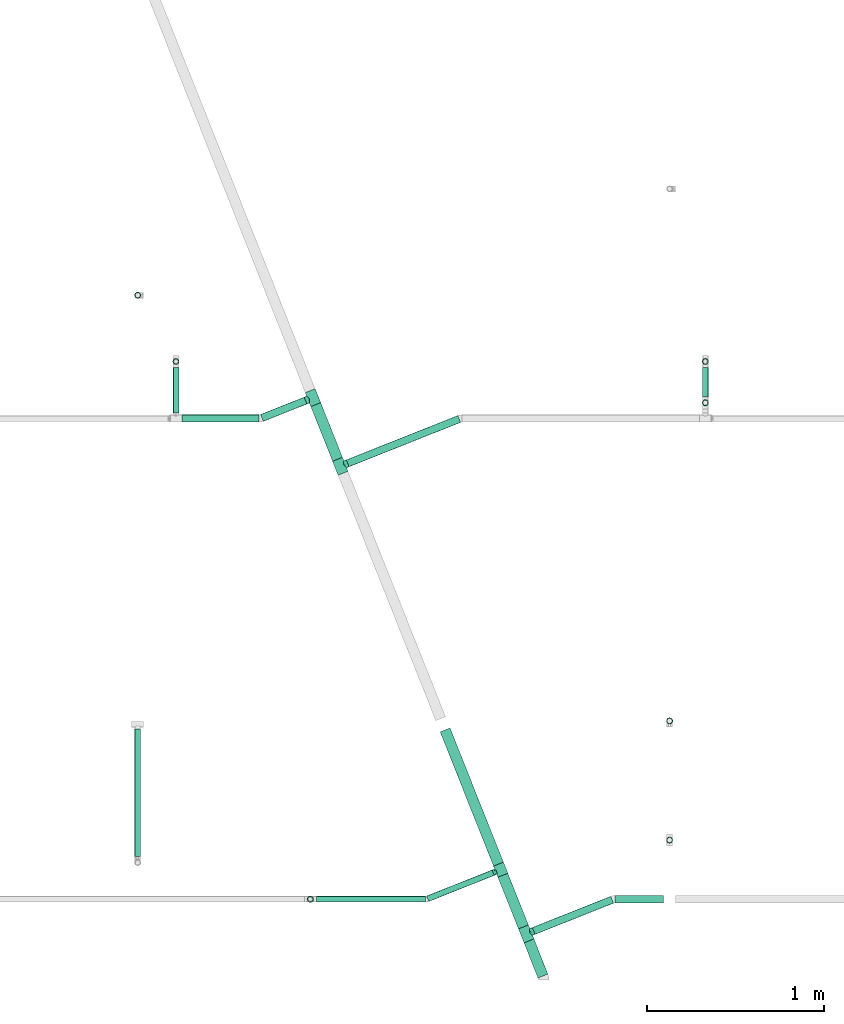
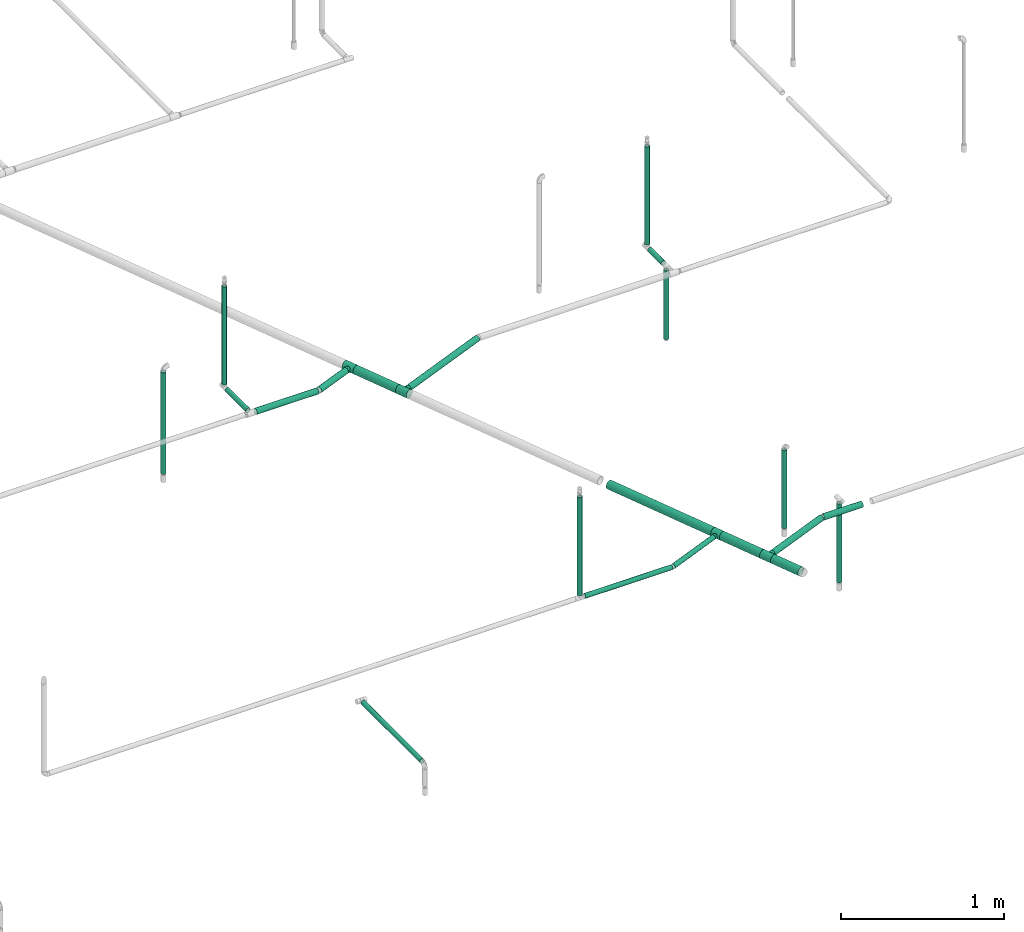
# One storey, part 7 of 94: 21 flow segments, 4 flow fittings.
"""IFC2X3 building model written with IfcOpenShell, lengths in millimetres."""

from ifc_helpers import new_model, entity, si_unit, converted_unit, derived_unit, direction, frame, origin_with_axes, origin_2d_with_axis, place, context, subcontext, project, spatial, hollow_circle, extrude, open_shell, surface_model, source, transform, mapped, type_object, element, save


model = new_model("IFC2X3")

# Units and contexts
model_context = context("Model", 3, precision=0.01, world=frame((0.0, 4.29681676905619e-09, 0.0)), true_north=direction((4.01073788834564e-13, 1.0)))
plan_context = context("Plan", 3, precision=0.01, world=frame((0.0, 4.29681676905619e-09, 0.0)), true_north=direction((4.01073788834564e-13, 1.0)))
body_context = subcontext(model_context, "Body", "Model", "MODEL_VIEW")
ifc_project = project(units=[converted_unit("PLANEANGLEUNIT", "DEGREE", entity("IfcPositiveLengthMeasure", 0.0174532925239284), si_unit("PLANEANGLEUNIT", "RADIAN"), dimensions=[0, 0, 0, 0, 0, 0, 0]), si_unit("AREAUNIT", "SQUARE_METRE"), si_unit("LENGTHUNIT", "METRE", prefix="MILLI"), si_unit("MASSUNIT", "GRAM", prefix="KILO"), si_unit("POWERUNIT", "WATT"), si_unit("PRESSUREUNIT", "PASCAL", prefix="KILO"), si_unit("FORCEUNIT", "NEWTON", prefix="KILO"), si_unit("ELECTRICVOLTAGEUNIT", "VOLT"), si_unit("ELECTRICCURRENTUNIT", "AMPERE"), si_unit("THERMODYNAMICTEMPERATUREUNIT", "DEGREE_CELSIUS"), si_unit("TIMEUNIT", "SECOND"), si_unit("VOLUMEUNIT", "CUBIC_METRE"), derived_unit("LINEARVELOCITYUNIT", [(si_unit("LENGTHUNIT", "METRE"), 1), (si_unit("TIMEUNIT", "SECOND"), -1)]), derived_unit("VOLUMETRICFLOWRATEUNIT", [(si_unit("VOLUMEUNIT", "CUBIC_METRE"), 1), (si_unit("TIMEUNIT", "SECOND"), -1)]), derived_unit("THERMALTRANSMITTANCEUNIT", [(si_unit("POWERUNIT", "WATT"), 1), (si_unit("THERMODYNAMICTEMPERATUREUNIT", "KELVIN"), -1), (si_unit("AREAUNIT", "SQUARE_METRE"), -1)]), derived_unit("SOUNDPRESSUREUNIT", [(si_unit("PRESSUREUNIT", "PASCAL"), 1)])], contexts=[model_context, plan_context])

# Site, building, storey
site_placement = place(None, frame((0.0, -4.29681676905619e-09, 0.0), z_axis=(0.0, 0.0, 1.0), x_axis=(1.0, 0.0, 0.0)))
site = spatial("IfcSite", under=ifc_project, at=site_placement, CompositionType="ELEMENT")
building_placement = place(site_placement, frame((0.0, 4.29681676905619e-09, 0.0), z_axis=(0.0, 0.0, 1.0), x_axis=(1.0, 0.0, 0.0)))
building = spatial("IfcBuilding", under=site, at=building_placement, Name="mc-building", CompositionType="ELEMENT")
storey_placement = place(building_placement, frame((0.0, 0.0, 210900.0), z_axis=(0.0, 0.0, 1.0), x_axis=(1.0, 0.0, 0.0)))
storey = spatial("IfcBuildingStorey", under=building, at=storey_placement, Name="Nivå F", CompositionType="ELEMENT", Elevation=210900.0)

# Flow fittings
pipe_fitting_type = type_object("IfcPipeFittingType", Name="magi_pipe_fe_tee_centric_90_NOR", PredefinedType="JUNCTION")
shared_shape_1 = source(origin_with_axes(), body_context, "Body", "SurfaceModel", [
    surface_model("IfcShellBasedSurfaceModel", [(-33.8, 15.1, -26.15397), (-33.8, 7.81634, -29.17096), (-33.8, 0.0, -30.2), (-33.8, 29.17096, -7.81634), (-33.8, 26.15397, -15.1), (-33.8, 21.35462, -21.35462), (-33.8, 30.2, 0.0), (-33.8, -30.2, 0.0), (-33.8, -15.1, -26.15397), (-33.8, -21.35462, -21.35462), (-33.8, -7.81634, -29.17096), (-33.8, -26.15397, -15.1), (-33.8, -29.17096, -7.81634), (-33.8, 26.15397, 15.1), (-33.8, 29.17096, 7.81634), (-33.8, 15.1, 26.15397), (-33.8, -21.35462, 21.35462), (-33.8, 21.35462, 21.35462), (-33.8, 7.81634, 29.17096), (-33.8, -29.17096, 7.81634), (-33.8, -26.15397, 15.1), (-33.8, -7.81634, 29.17096), (-33.8, 0.0, 30.2), (-33.8, -15.1, 26.15397), (33.8, 29.17096, -7.81634), (33.8, 0.0, -30.2), (33.8, 7.81634, -29.17096), (33.8, 21.35462, -21.35462), (33.8, 15.1, -26.15397), (33.8, 26.15397, -15.1), (33.8, -30.2, 0.0), (33.8, -7.81634, -29.17096), (33.8, -21.35462, -21.35462), (33.8, -15.1, -26.15397), (33.8, -29.17096, -7.81634), (33.8, -26.15397, -15.1), (33.8, 30.2, 0.0), (33.8, 29.17096, 7.81634), (33.8, 26.15397, 15.1), (33.8, -29.17096, 7.81634), (33.8, 15.1, 26.15397), (33.8, 7.81634, 29.17096), (33.8, 21.35462, 21.35462), (33.8, -21.35462, 21.35462), (33.8, -26.15397, 15.1), (33.8, -15.1, 26.15397), (33.8, 0.0, 30.2), (33.8, -7.81634, 29.17096), (33.8, -29.68548, 3.90817), (15.846, -29.62306, 5.87488), (16.373, -29.91153, 2.93744), (12.91037, -28.16217, 10.90561), (2.99213, -25.2068, 16.63301), (16.9, -30.2, 0.0), (33.8, -27.66246, 11.45817), (8.50854, -26.43531, 14.60187), (-8.51006, -26.43579, 14.60099), (-33.8, -27.66246, 11.45817), (-12.91447, -28.16405, 10.90075), (-15.84655, -29.62335, 5.87341), (-33.8, -29.68548, 3.90817), (-16.37327, -29.91168, 2.93671), (-16.9, -30.2, 0.0), (-2.99705, -25.20739, 16.63213), (2.99213, -25.2068, -16.63301), (-16.37327, -29.91168, -2.93671), (8.50854, -26.43531, -14.60187), (33.8, -27.66246, -11.45817), (16.373, -29.91153, -2.93744), (-33.8, -29.68548, -3.90817), (-15.84655, -29.62335, -5.87341), (15.846, -29.62306, -5.87488), (12.91037, -28.16217, -10.90561), (33.8, -29.68548, -3.90817), (-2.99705, -25.20739, -16.63213), (-8.51006, -26.43579, -14.60099), (-12.91447, -28.16405, -10.90075), (-33.8, -27.66246, -11.45817), (4.37404, -45.3, -16.32415), (-16.9, -45.3, 0.0), (0.0, -45.3, -16.9), (14.63583, -45.3, -8.45), (8.45, -45.3, -14.63583), (16.32415, -45.3, -4.37404), (11.9501, -45.3, -11.9501), (-11.9501, -45.3, -11.9501), (-8.45, -45.3, -14.63583), (-4.37404, -45.3, -16.32415), (-14.63583, -45.3, -8.45), (-16.32415, -45.3, -4.37404), (16.9, -45.3, 0.0), (8.45, -45.3, 14.63583), (16.32415, -45.3, 4.37404), (14.63583, -45.3, 8.45), (-8.45, -45.3, 14.63583), (11.9501, -45.3, 11.9501), (4.37404, -45.3, 16.32415), (-16.32415, -45.3, 4.37404), (-11.9501, -45.3, 11.9501), (-14.63583, -45.3, 8.45), (0.0, -45.3, 16.9), (-4.37404, -45.3, 16.32415), (-5.75355, -25.82159, 15.61656), (-0.00246, -25.20709, 16.63257), (5.75034, -25.82105, 15.61744), (5.75034, -25.82105, -15.61744), (-0.00246, -25.20709, -16.63257), (-5.75355, -25.82159, -15.61656)], [open_shell([[[0, 1, 2]], [[3, 0, 2]], [[0, 3, 4]], [[5, 0, 4]], [[6, 2, 7]], [[8, 9, 10]], [[9, 2, 10]], [[11, 12, 9]], [[7, 9, 12]], [[9, 7, 2]], [[6, 3, 2]], [[13, 14, 6]], [[7, 15, 13]], [[7, 16, 15]], [[17, 13, 15]], [[18, 15, 16]], [[19, 20, 7]], [[7, 20, 16]], [[21, 22, 23]], [[16, 23, 22]], [[16, 22, 18]], [[7, 13, 6]], [[24, 25, 26]], [[27, 26, 28]], [[29, 24, 26]], [[29, 26, 27]], [[25, 24, 30]], [[31, 32, 33]], [[32, 31, 34]], [[32, 34, 35]], [[34, 31, 30]], [[31, 25, 30]], [[24, 36, 30]], [[36, 37, 38]], [[39, 36, 38]], [[40, 41, 38]], [[40, 38, 42]], [[43, 38, 41]], [[39, 43, 44]], [[39, 38, 43]], [[45, 46, 47]], [[46, 45, 43]], [[41, 46, 43]], [[36, 39, 30]], [[48, 39, 49]], [[30, 48, 50]], [[39, 51, 49]], [[44, 43, 52]], [[30, 50, 53]], [[51, 54, 55]], [[52, 55, 44]], [[48, 49, 50]], [[43, 16, 52]], [[55, 54, 44]], [[56, 57, 58]], [[59, 60, 61]], [[62, 61, 7]], [[59, 58, 19]], [[56, 63, 20]], [[51, 39, 54]], [[20, 57, 56]], [[20, 63, 16]], [[58, 57, 19]], [[63, 52, 16]], [[7, 61, 60]], [[59, 19, 60]], [[43, 23, 16]], [[22, 47, 46]], [[21, 45, 47]], [[18, 46, 41]], [[38, 37, 14]], [[17, 40, 42]], [[13, 42, 38]], [[41, 40, 15]], [[6, 37, 36]], [[23, 45, 21]], [[21, 47, 22]], [[18, 22, 46]], [[41, 15, 18]], [[15, 40, 17]], [[13, 17, 42]], [[14, 13, 38]], [[37, 6, 14]], [[45, 23, 43]], [[4, 24, 29]], [[3, 36, 24]], [[5, 29, 27]], [[25, 31, 10]], [[1, 28, 26]], [[2, 26, 25]], [[27, 28, 0]], [[8, 31, 33]], [[6, 36, 3]], [[3, 24, 4]], [[5, 4, 29]], [[27, 0, 5]], [[0, 28, 1]], [[2, 1, 26]], [[10, 2, 25]], [[31, 8, 10]], [[33, 9, 8]], [[32, 35, 64]], [[7, 65, 62]], [[66, 64, 35]], [[67, 66, 35]], [[32, 64, 9]], [[53, 68, 30]], [[69, 70, 65]], [[71, 72, 34]], [[71, 73, 68]], [[66, 67, 72]], [[34, 72, 67]], [[74, 75, 11]], [[76, 12, 77]], [[11, 9, 74]], [[76, 77, 75]], [[74, 9, 64]], [[76, 70, 12]], [[71, 34, 73]], [[70, 69, 12]], [[65, 7, 69]], [[30, 68, 73]], [[77, 11, 75]], [[32, 9, 33]], [[78, 79, 80]], [[81, 78, 82]], [[81, 83, 78]], [[81, 82, 84]], [[79, 78, 83]], [[80, 85, 86]], [[86, 87, 80]], [[88, 79, 89]], [[85, 80, 88]], [[79, 88, 80]], [[83, 90, 79]], [[91, 90, 92]], [[91, 92, 93]], [[94, 79, 91]], [[91, 93, 95]], [[94, 91, 96]], [[97, 98, 99]], [[98, 97, 94]], [[94, 100, 101]], [[97, 79, 94]], [[96, 100, 94]], [[91, 79, 90]], [[97, 61, 79]], [[58, 99, 98]], [[97, 99, 59]], [[98, 94, 56]], [[61, 62, 79]], [[59, 99, 58]], [[101, 63, 102]], [[56, 58, 98]], [[100, 52, 103]], [[91, 104, 96]], [[100, 96, 52]], [[50, 49, 92]], [[50, 90, 53]], [[104, 91, 55]], [[102, 94, 101]], [[102, 56, 94]], [[100, 63, 101]], [[97, 59, 61]], [[55, 91, 95]], [[95, 51, 55]], [[52, 96, 104]], [[92, 49, 93]], [[90, 50, 92]], [[93, 49, 51]], [[93, 51, 95]], [[103, 63, 100]], [[83, 68, 90]], [[72, 81, 84]], [[83, 81, 71]], [[84, 82, 66]], [[68, 53, 90]], [[71, 81, 72]], [[78, 64, 105]], [[66, 72, 84]], [[80, 74, 106]], [[86, 107, 87]], [[65, 70, 89]], [[105, 82, 78]], [[105, 66, 82]], [[75, 86, 85]], [[83, 71, 68]], [[70, 88, 89]], [[65, 79, 62]], [[85, 88, 76]], [[80, 64, 78]], [[87, 107, 74]], [[74, 80, 87]], [[75, 107, 86]], [[75, 85, 76]], [[76, 88, 70]], [[79, 65, 89]], [[106, 64, 80]]])]),
])
flow_fitting_placement = place(storey_placement, frame((721047.26853, 435360.68806, 3600.0), z_axis=(0.0, 0.0, -1.0), x_axis=(-0.369451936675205, 0.929249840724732, 0.0)))
element("IfcFlowFitting", 1, at=flow_fitting_placement, inside=storey, type_object=pipe_fitting_type, Name="magi_pipe_fe_tee_centric_90_NOR", context=body_context, shape_type="MappedRepresentation", body=[
    mapped(shared_shape_1, transform((0.0, 0.0, 0.0), scale=1.0)),
])
shared_shape_2 = source(origin_with_axes(), body_context, "Body", "SurfaceModel", [
    surface_model("IfcShellBasedSurfaceModel", [(-42.4, 15.1, -26.15397), (-42.4, 7.81634, -29.17096), (-42.4, 0.0, -30.2), (-42.4, 29.17096, -7.81634), (-42.4, 26.15397, -15.1), (-42.4, 21.35462, -21.35462), (-42.4, 30.2, 0.0), (-42.4, -30.2, 0.0), (-42.4, -15.1, -26.15397), (-42.4, -21.35462, -21.35462), (-42.4, -7.81634, -29.17096), (-42.4, -26.15397, -15.1), (-42.4, -29.17096, -7.81634), (-42.4, 26.15397, 15.1), (-42.4, 29.17096, 7.81634), (-42.4, 15.1, 26.15397), (-42.4, -21.35462, 21.35462), (-42.4, 21.35462, 21.35462), (-42.4, 7.81634, 29.17096), (-42.4, -29.17096, 7.81634), (-42.4, -26.15397, 15.1), (-42.4, -15.1, 26.15397), (-42.4, -7.81634, 29.17096), (-42.4, 0.0, 30.2), (42.4, 29.17096, -7.81634), (42.4, 0.0, -30.2), (42.4, 7.81634, -29.17096), (42.4, 21.35462, -21.35462), (42.4, 15.1, -26.15397), (42.4, 26.15397, -15.1), (42.4, -15.1, -26.15397), (42.4, -29.17096, -7.81634), (42.4, -21.35462, -21.35462), (42.4, -7.81634, -29.17096), (42.4, -26.15397, -15.1), (42.4, -30.2, 0.0), (42.4, 30.2, 0.0), (42.4, 29.17096, 7.81634), (42.4, 26.15397, 15.1), (42.4, -15.1, 26.15397), (42.4, 15.1, 26.15397), (42.4, 7.81634, 29.17096), (42.4, 21.35462, 21.35462), (42.4, 0.0, 30.2), (42.4, -26.15397, 15.1), (42.4, -29.17096, 7.81634), (42.4, -21.35462, 21.35462), (42.4, -7.81634, 29.17096), (19.84181, -29.26256, 7.46609), (21.2, -30.2, 0.0), (16.14301, -26.89232, 13.74202), (42.4, -23.7543, 18.22731), (10.69837, -24.02197, 18.30259), (3.8093, -21.84287, 20.85496), (-3.8158, -21.844, 20.85377), (-10.70022, -24.0228, 18.30151), (-42.4, -23.7543, 18.22731), (-21.2, -30.2, 0.0), (-19.84258, -29.26308, 7.46405), (-16.14727, -26.89488, 13.73701), (3.8093, -21.84287, -20.85496), (42.4, -23.7543, -18.22731), (10.69837, -24.02197, -18.30259), (-10.70022, -24.0228, -18.30151), (-42.4, -23.7543, -18.22731), (16.14301, -26.89232, -13.74202), (-3.8158, -21.844, -20.85377), (19.84181, -29.26256, -7.46609), (-16.14727, -26.89488, -13.73701), (-19.84258, -29.26308, -7.46405), (14.99066, -45.3, -14.99066), (0.0, -45.3, -21.2), (5.48696, -45.3, -20.47763), (10.6, -45.3, -18.35974), (18.35974, -45.3, -10.6), (20.47763, -45.3, -5.48696), (-21.2, -45.3, 0.0), (-10.6, -45.3, 18.35974), (-5.48696, -45.3, -20.47763), (-14.99066, -45.3, -14.99066), (-10.6, -45.3, -18.35974), (-18.35974, -45.3, -10.6), (-20.47763, -45.3, -5.48696), (20.47763, -45.3, 5.48696), (18.35974, -45.3, 10.6), (10.6, -45.3, 18.35974), (14.99066, -45.3, 14.99066), (0.0, -45.3, 21.2), (5.48696, -45.3, 20.47763), (-14.99066, -45.3, 14.99066), (-18.35974, -45.3, 10.6), (-20.47763, -45.3, 5.48696), (-5.48696, -45.3, 20.47763), (21.2, -45.3, 0.0), (-20.52129, -29.73154, 3.73203), (-0.00325, -21.84343, 20.85436), (20.52091, -29.73128, 3.73304), (20.52091, -29.73128, -3.73304), (-0.00325, -21.84343, -20.85436), (-20.52129, -29.73154, -3.73203)], [open_shell([[[0, 1, 2]], [[3, 0, 2]], [[0, 3, 4]], [[5, 0, 4]], [[6, 2, 7]], [[8, 9, 10]], [[9, 2, 10]], [[11, 12, 9]], [[7, 9, 12]], [[9, 7, 2]], [[6, 3, 2]], [[13, 14, 6]], [[7, 15, 13]], [[7, 16, 15]], [[17, 13, 15]], [[18, 15, 16]], [[19, 20, 7]], [[7, 20, 16]], [[21, 22, 16]], [[23, 16, 22]], [[16, 23, 18]], [[7, 13, 6]], [[24, 25, 26]], [[27, 26, 28]], [[27, 29, 24]], [[27, 24, 26]], [[25, 24, 30]], [[30, 31, 32]], [[30, 33, 25]], [[32, 31, 34]], [[31, 30, 35]], [[24, 35, 30]], [[24, 36, 35]], [[36, 37, 38]], [[39, 36, 38]], [[40, 41, 38]], [[40, 38, 42]], [[43, 38, 41]], [[35, 44, 45]], [[46, 44, 35]], [[39, 43, 47]], [[46, 36, 39]], [[38, 43, 39]], [[46, 35, 36]], [[35, 45, 48]], [[48, 49, 35]], [[45, 50, 48]], [[51, 46, 52]], [[52, 50, 44]], [[53, 52, 46]], [[54, 53, 21]], [[44, 50, 45]], [[55, 16, 56]], [[57, 58, 7]], [[19, 7, 58]], [[58, 59, 19]], [[55, 54, 16]], [[55, 20, 59]], [[20, 55, 56]], [[59, 20, 19]], [[16, 54, 21]], [[52, 44, 51]], [[53, 46, 39]], [[23, 47, 43]], [[22, 39, 47]], [[18, 43, 41]], [[38, 37, 14]], [[17, 40, 42]], [[13, 42, 38]], [[41, 40, 15]], [[6, 37, 36]], [[21, 39, 22]], [[22, 47, 23]], [[18, 23, 43]], [[41, 15, 18]], [[15, 40, 17]], [[13, 17, 42]], [[14, 13, 38]], [[37, 6, 14]], [[39, 21, 53]], [[4, 24, 29]], [[3, 36, 24]], [[5, 29, 27]], [[25, 33, 10]], [[1, 28, 26]], [[2, 26, 25]], [[27, 28, 0]], [[8, 33, 30]], [[6, 36, 3]], [[3, 24, 4]], [[5, 4, 29]], [[27, 0, 5]], [[0, 28, 1]], [[2, 1, 26]], [[10, 2, 25]], [[33, 8, 10]], [[30, 60, 8]], [[61, 34, 62]], [[63, 11, 64]], [[62, 60, 32]], [[34, 65, 62]], [[66, 8, 60]], [[31, 35, 67]], [[67, 65, 31]], [[49, 67, 35]], [[31, 65, 34]], [[66, 63, 9]], [[62, 32, 61]], [[64, 9, 63]], [[63, 68, 11]], [[9, 8, 66]], [[68, 69, 12]], [[69, 7, 12]], [[7, 69, 57]], [[68, 12, 11]], [[60, 30, 32]], [[70, 71, 72]], [[70, 72, 73]], [[70, 74, 75]], [[70, 75, 71]], [[76, 71, 77]], [[78, 79, 80]], [[78, 71, 79]], [[81, 76, 82]], [[79, 71, 81]], [[71, 76, 81]], [[71, 75, 77]], [[83, 84, 75]], [[84, 85, 75]], [[85, 77, 75]], [[85, 84, 86]], [[87, 85, 88]], [[76, 89, 90]], [[91, 76, 90]], [[77, 87, 92]], [[77, 89, 76]], [[85, 87, 77]], [[75, 93, 83]], [[91, 94, 76]], [[59, 90, 89]], [[91, 90, 58]], [[89, 77, 55]], [[94, 57, 76]], [[58, 90, 59]], [[55, 92, 54]], [[55, 59, 89]], [[87, 53, 95]], [[55, 77, 92]], [[87, 88, 53]], [[96, 48, 83]], [[52, 88, 85]], [[48, 84, 83]], [[96, 93, 49]], [[87, 54, 92]], [[91, 58, 94]], [[88, 52, 53]], [[52, 85, 86]], [[52, 86, 50]], [[50, 86, 84]], [[50, 84, 48]], [[93, 96, 83]], [[95, 54, 87]], [[75, 97, 93]], [[65, 74, 70]], [[75, 74, 67]], [[70, 73, 62]], [[97, 49, 93]], [[67, 74, 65]], [[62, 72, 60]], [[62, 65, 70]], [[71, 66, 98]], [[62, 73, 72]], [[99, 76, 57]], [[99, 69, 82]], [[63, 80, 79]], [[75, 67, 97]], [[69, 81, 82]], [[81, 68, 79]], [[71, 60, 72]], [[66, 78, 63]], [[66, 71, 78]], [[78, 80, 63]], [[63, 79, 68]], [[68, 81, 69]], [[76, 99, 82]], [[98, 60, 71]]])]),
])
for number, where, z_axis, x_axis, name in (
    (2, (720142.53605, 437636.27858, 3600.0), (0.0, 0.0, 1.0), (-0.369451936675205, 0.929249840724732, 0.0), "magi_pipe_fe_tee_centric_90_NOR"),
    (3, (719988.63201, 438023.37928, 3600.0), (0.0, 0.0, -1.0), (-0.369451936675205, 0.929249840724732, 0.0), "magi_pipe_fe_tee_centric_90_NOR"),
    (4, (721191.25225, 434998.53905, 3600.0), (0.0, 0.0, 1.0), (-0.369451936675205, 0.929249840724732, 0.0), "magi_pipe_fe_tee_centric_90_NOR"),
):
    element("IfcFlowFitting", number, at=place(storey_placement, frame(where, z_axis=z_axis, x_axis=x_axis)), inside=storey, type_object=pipe_fitting_type, Name=name, context=body_context, shape_type="MappedRepresentation", body=[
        mapped(shared_shape_2, transform((0.0, 0.0, 0.0), scale=1.0)),
    ])

# Flow segments
pipe_segment_type = type_object("IfcPipeSegmentType", Name="Stålrør normaltykke", PredefinedType="RIGIDSEGMENT")
shared_shape_3 = source(origin_with_axes(), body_context, "Body", "SweptSolid", [
    extrude(hollow_circle(Radius=30.1, WallThickness=2.0, at=origin_2d_with_axis()), frame((0.0, 0.0, 0.0), z_axis=(1.0, 0.0, 0.0), x_axis=(0.0, 1.0, 0.0)), (0.0, 0.0, 1.0), 213.3),
])
flow_segment_1_placement = place(storey_placement, frame((721206.91703, 434959.13886, 3600.0), z_axis=(0.0, 0.0, 1.0), x_axis=(0.369451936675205, -0.929249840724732, 0.0)))
element("IfcFlowSegment", 5, at=flow_segment_1_placement, inside=storey, type_object=pipe_segment_type, Name="Stålrør normaltykke", context=body_context, shape_type="MappedRepresentation", body=[
    mapped(shared_shape_3, transform((0.0, 0.0, 0.0), scale=1.0)),
])
shared_shape_4 = source(origin_with_axes(), body_context, "Body", "SweptSolid", [
    extrude(hollow_circle(Radius=21.2, WallThickness=2.0, at=origin_2d_with_axis()), frame((0.0, 0.0, 0.0), z_axis=(1.0, 0.0, 0.0), x_axis=(0.0, 1.0, 0.0)), (0.0, 0.0, 1.0), 676.7),
])
flow_segment_2_placement = place(storey_placement, frame((720184.63106, 437653.01477, 3600.0), z_axis=(0.0, 0.0, 1.0), x_axis=(0.929249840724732, 0.369451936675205, 0.0)))
element("IfcFlowSegment", 6, at=flow_segment_2_placement, inside=storey, type_object=pipe_segment_type, Name="Stålrør normaltykke", context=body_context, shape_type="MappedRepresentation", body=[
    mapped(shared_shape_4, transform((0.0, 0.0, 0.0), scale=1.0)),
])
shared_shape_5 = source(origin_with_axes(), body_context, "Body", "SweptSolid", [
    extrude(hollow_circle(Radius=30.1, WallThickness=2.0, at=origin_2d_with_axis()), frame((0.0, 0.0, 0.0), z_axis=(1.0, 0.0, 0.0), x_axis=(0.0, 1.0, 0.0)), (0.0, 0.0, 1.0), 331.8),
])
flow_segment_3_placement = place(storey_placement, frame((720004.2968, 437983.97909, 3600.0), z_axis=(0.0, 0.0, 1.0), x_axis=(0.369451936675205, -0.929249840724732, 0.0)))
element("IfcFlowSegment", 7, at=flow_segment_3_placement, inside=storey, type_object=pipe_segment_type, Name="Stålrør normaltykke", context=body_context, shape_type="MappedRepresentation", body=[
    mapped(shared_shape_5, transform((0.0, 0.0, 0.0), scale=1.0)),
])
shared_shape_6 = source(origin_with_axes(), body_context, "Body", "SweptSolid", [
    extrude(hollow_circle(Radius=21.2, WallThickness=2.0, at=origin_2d_with_axis()), frame((0.0, 0.0, 0.0), z_axis=(1.0, 0.0, 0.0), x_axis=(0.0, 1.0, 0.0)), (0.0, 0.0, 1.0), 264.2),
])
flow_segment_4_placement = place(storey_placement, frame((719946.537, 438006.64309, 3600.0), z_axis=(0.0, 0.0, 1.0), x_axis=(-0.929249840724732, -0.369451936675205, 0.0)))
element("IfcFlowSegment", 8, at=flow_segment_4_placement, inside=storey, type_object=pipe_segment_type, Name="Stålrør normaltykke", context=body_context, shape_type="MappedRepresentation", body=[
    mapped(shared_shape_6, transform((0.0, 0.0, 0.0), scale=1.0)),
])
shared_shape_7 = source(origin_with_axes(), body_context, "Body", "SweptSolid", [
    extrude(hollow_circle(Radius=16.9, WallThickness=2.0, at=origin_2d_with_axis()), frame((0.0, 0.0, 0.0), z_axis=(1.0, 0.0, 0.0), x_axis=(0.0, 1.0, 0.0)), (0.0, 0.0, 1.0), 255.6),
])
flow_segment_5_placement = place(storey_placement, frame((719215.77033, 437937.83424, 3600.0), z_axis=(0.0, 0.0, 1.0), x_axis=(0.0, 1.0, 0.0)))
element("IfcFlowSegment", 9, at=flow_segment_5_placement, inside=storey, type_object=pipe_segment_type, Name="Stålrør normaltykke", context=body_context, shape_type="MappedRepresentation", body=[
    mapped(shared_shape_7, transform((0.0, 0.0, 0.0), scale=1.0)),
])
shared_shape_8 = source(origin_with_axes(), body_context, "Body", "SweptSolid", [
    extrude(hollow_circle(Radius=21.2, WallThickness=2.0, at=origin_2d_with_axis()), frame((0.0, 0.0, 0.0), z_axis=(1.0, 0.0, 0.0), x_axis=(0.0, 1.0, 0.0)), (0.0, 0.0, 1.0), 435.8),
])
flow_segment_6_placement = place(storey_placement, frame((719685.36519, 437906.03424, 3600.0), z_axis=(0.0, 0.0, 1.0), x_axis=(-1.0, 0.0, 0.0)))
element("IfcFlowSegment", 10, at=flow_segment_6_placement, inside=storey, type_object=pipe_segment_type, Name="Stålrør normaltykke", context=body_context, shape_type="MappedRepresentation", body=[
    mapped(shared_shape_8, transform((0.0, 0.0, 0.0), scale=1.0)),
])
shared_shape_9 = source(origin_with_axes(), body_context, "Body", "SweptSolid", [
    extrude(hollow_circle(Radius=16.9, WallThickness=2.0, at=origin_2d_with_axis()), frame((0.0, 0.0, 0.0), z_axis=(1.0, 0.0, 0.0), x_axis=(0.0, 1.0, 0.0)), (0.0, 0.0, 1.0), 165.2),
])
flow_segment_7_placement = place(storey_placement, frame((722201.53694, 438028.26077, 3600.0), z_axis=(0.0, 0.0, 1.0), x_axis=(0.0, 1.0, 0.0)))
element("IfcFlowSegment", 11, at=flow_segment_7_placement, inside=storey, type_object=pipe_segment_type, Name="Stålrør normaltykke", context=body_context, shape_type="MappedRepresentation", body=[
    mapped(shared_shape_9, transform((0.0, 0.0, 0.0), scale=1.0)),
])
shared_shape_10 = source(origin_with_axes(), body_context, "Body", "SweptSolid", [
    extrude(hollow_circle(Radius=16.9, WallThickness=2.0, at=origin_2d_with_axis()), frame((0.0, 0.0, 0.0), z_axis=(1.0, 0.0, 0.0), x_axis=(0.0, 1.0, 0.0)), (0.0, 0.0, 1.0), 398.4),
])
flow_segment_8_placement = place(storey_placement, frame((721005.17352, 435343.95187, 3600.0), z_axis=(0.0, 0.0, 1.0), x_axis=(-0.929249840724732, -0.369451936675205, 0.0)))
element("IfcFlowSegment", 12, at=flow_segment_8_placement, inside=storey, type_object=pipe_segment_type, Name="Stålrør normaltykke", context=body_context, shape_type="MappedRepresentation", body=[
    mapped(shared_shape_10, transform((0.0, 0.0, 0.0), scale=1.0)),
])
shared_shape_11 = source(origin_with_axes(), body_context, "Body", "SweptSolid", [
    extrude(hollow_circle(Radius=30.1, WallThickness=2.0, at=origin_2d_with_axis()), frame((0.0, 0.0, 0.0), z_axis=(1.0, 0.0, 0.0), x_axis=(0.0, 1.0, 0.0)), (0.0, 0.0, 1.0), 815.1),
])
flow_segment_9_placement = place(storey_placement, frame((720733.63483, 436149.54212, 3600.0), z_axis=(0.0, 0.0, 1.0), x_axis=(0.369451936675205, -0.929249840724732, 0.0)))
element("IfcFlowSegment", 13, at=flow_segment_9_placement, inside=storey, type_object=pipe_segment_type, Name="Stålrør normaltykke", context=body_context, shape_type="MappedRepresentation", body=[
    mapped(shared_shape_11, transform((0.0, 0.0, 0.0), scale=1.0)),
])
shared_shape_12 = source(origin_with_axes(), body_context, "Body", "SweptSolid", [
    extrude(hollow_circle(Radius=21.2, WallThickness=2.0, at=origin_2d_with_axis()), frame((0.0, 0.0, 0.0), z_axis=(1.0, 0.0, 0.0), x_axis=(0.0, 1.0, 0.0)), (0.0, 0.0, 1.0), 476.7),
])
flow_segment_10_placement = place(storey_placement, frame((721233.34726, 435015.27524, 3600.0), z_axis=(0.0, 0.0, 1.0), x_axis=(0.929249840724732, 0.369451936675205, 0.0)))
element("IfcFlowSegment", 14, at=flow_segment_10_placement, inside=storey, type_object=pipe_segment_type, Name="Stålrør normaltykke", context=body_context, shape_type="MappedRepresentation", body=[
    mapped(shared_shape_12, transform((0.0, 0.0, 0.0), scale=1.0)),
])
shared_shape_13 = source(origin_with_axes(), body_context, "Body", "SweptSolid", [
    extrude(hollow_circle(Radius=30.1, WallThickness=2.0, at=origin_2d_with_axis()), frame((0.0, 0.0, 0.0), z_axis=(1.0, 0.0, 0.0), x_axis=(0.0, 1.0, 0.0)), (0.0, 0.0, 1.0), 313.5),
])
flow_segment_11_placement = place(storey_placement, frame((721059.75602, 435329.27942, 3600.0), z_axis=(0.0, 0.0, 1.0), x_axis=(0.369451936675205, -0.929249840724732, 0.0)))
element("IfcFlowSegment", 15, at=flow_segment_11_placement, inside=storey, type_object=pipe_segment_type, Name="Stålrør normaltykke", context=body_context, shape_type="MappedRepresentation", body=[
    mapped(shared_shape_13, transform((0.0, 0.0, 0.0), scale=1.0)),
])
shared_shape_14 = source(origin_with_axes(), body_context, "Body", "SweptSolid", [
    extrude(hollow_circle(Radius=16.9, WallThickness=2.0, at=origin_2d_with_axis()), frame((0.0, 0.0, 0.0), z_axis=(1.0, 0.0, 0.0), x_axis=(0.0, 1.0, 0.0)), (0.0, 0.0, 1.0), 732.3),
])
for number, where, z_axis, x_axis in (
    (16, (719973.83068, 435194.37907, 3625.35000000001), (-0.000893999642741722, -0.99999960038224, 0.0), (0.0, 0.0, 1.0)),
    (17, (719215.77033, 438227.23424, 3625.35000000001), (-1.0, 0.0, 0.0), (0.0, 0.0, 1.0)),
    (18, (722201.53694, 438227.23424, 3625.35000000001), (-1.0, 0.0, 0.0), (0.0, 0.0, 1.0)),
):
    element("IfcFlowSegment", number, at=place(storey_placement, frame(where, z_axis=z_axis, x_axis=x_axis)), inside=storey, type_object=pipe_segment_type, Name="Stålrør normaltykke", context=body_context, shape_type="MappedRepresentation", body=[
        mapped(shared_shape_14, transform((0.0, 0.0, 0.0), scale=1.0)),
    ])
shared_shape_15 = source(origin_with_axes(), body_context, "Body", "SweptSolid", [
    extrude(hollow_circle(Radius=16.9, WallThickness=2.0, at=origin_2d_with_axis()), frame((0.0, 0.0, 0.0), z_axis=(1.0, 0.0, 0.0), x_axis=(0.0, 1.0, 0.0)), (0.0, 0.0, 1.0), 614.9),
])
flow_segment_12_placement = place(storey_placement, frame((720622.49408, 435194.37907, 3600.0), z_axis=(0.0, 0.0, 1.0), x_axis=(-1.0, 0.0, 0.0)))
element("IfcFlowSegment", 19, at=flow_segment_12_placement, inside=storey, type_object=pipe_segment_type, Name="Stålrør normaltykke", context=body_context, shape_type="MappedRepresentation", body=[
    mapped(shared_shape_15, transform((0.0, 0.0, 0.0), scale=1.0)),
])
shared_shape_16 = source(origin_with_axes(), body_context, "Body", "SweptSolid", [
    extrude(hollow_circle(Radius=16.9, WallThickness=2.0, at=origin_2d_with_axis()), frame((0.0, 0.0, 0.0), z_axis=(1.0, 0.0, 0.0), x_axis=(0.0, 1.0, 0.0)), (0.0, 0.0, 1.0), 515.3),
])
flow_segment_13_placement = place(storey_placement, frame((722201.53694, 437994.46077, 3574.64999999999), z_axis=(-1.0, 0.0, 0.0), x_axis=(0.0, 0.0, -1.0)))
element("IfcFlowSegment", 20, at=flow_segment_13_placement, inside=storey, type_object=pipe_segment_type, Name="Stålrør normaltykke", context=body_context, shape_type="MappedRepresentation", body=[
    mapped(shared_shape_16, transform((0.0, 0.0, 0.0), scale=1.0)),
])
shared_shape_17 = source(origin_with_axes(), body_context, "Body", "SweptSolid", [
    extrude(hollow_circle(Radius=16.9, WallThickness=2.0, at=origin_2d_with_axis()), frame((0.0, 0.0, 0.0), z_axis=(1.0, 0.0, 0.0), x_axis=(0.0, 1.0, 0.0)), (0.0, 0.0, 1.0), 720.8),
])
flow_segment_14_placement = place(storey_placement, frame((719000.0, 435434.75236, 2575.44639999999), z_axis=(0.0, 4.09999999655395e-05, 0.9999999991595), x_axis=(0.0, 0.9999999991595, -4.09999999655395e-05)))
element("IfcFlowSegment", 21, at=flow_segment_14_placement, inside=storey, type_object=pipe_segment_type, Name="Stålrør normaltykke", context=body_context, shape_type="MappedRepresentation", body=[
    mapped(shared_shape_17, transform((0.0, 0.0, 0.0), scale=1.0)),
])
shared_shape_18 = source(origin_with_axes(), body_context, "Body", "SweptSolid", [
    extrude(hollow_circle(Radius=16.9, WallThickness=2.0, at=origin_2d_with_axis()), frame((0.0, 0.0, 0.0), z_axis=(1.0, 0.0, 0.0), x_axis=(0.0, 1.0, 0.0)), (0.0, 0.0, 1.0), 759.3),
])
flow_segment_15_placement = place(storey_placement, frame((719000.0, 438600.7, 2806.89074), z_axis=(0.0, 1.0, 0.0), x_axis=(0.0, 0.0, 1.0)))
element("IfcFlowSegment", 22, at=flow_segment_15_placement, inside=storey, type_object=pipe_segment_type, Name="Stålrør normaltykke", context=body_context, shape_type="MappedRepresentation", body=[
    mapped(shared_shape_18, transform((0.0, 0.0, 0.0), scale=1.0)),
])
shared_shape_19 = source(origin_with_axes(), body_context, "Body", "SweptSolid", [
    extrude(hollow_circle(Radius=16.9, WallThickness=2.0, at=origin_2d_with_axis()), frame((0.0, 0.0, 0.0), z_axis=(1.0, 0.0, 0.0), x_axis=(0.0, 1.0, 0.0)), (0.0, 0.0, 1.0), 582.7),
])
flow_segment_16_placement = place(storey_placement, frame((722000.0, 436200.0, 2806.89074), z_axis=(0.0, 1.0, 0.0), x_axis=(0.0, 0.0, 1.0)))
element("IfcFlowSegment", 23, at=flow_segment_16_placement, inside=storey, type_object=pipe_segment_type, Name="Stålrør normaltykke", context=body_context, shape_type="MappedRepresentation", body=[
    mapped(shared_shape_19, transform((0.0, 0.0, 0.0), scale=1.0)),
])
shared_shape_20 = source(origin_with_axes(), body_context, "Body", "SweptSolid", [
    extrude(hollow_circle(Radius=21.2, WallThickness=2.0, at=origin_2d_with_axis()), frame((0.0, 0.0, 0.0), z_axis=(1.0, 0.0, 0.0), x_axis=(0.0, 1.0, 0.0)), (0.0, 0.0, 1.0), 274.2),
])
flow_segment_17_placement = place(storey_placement, frame((721691.9503, 435194.37907, 3600.0), z_axis=(0.0, 0.0, 1.0), x_axis=(1.0, 0.0, 0.0)))
element("IfcFlowSegment", 24, at=flow_segment_17_placement, inside=storey, type_object=pipe_segment_type, Name="Stålrør normaltykke", context=body_context, shape_type="MappedRepresentation", body=[
    mapped(shared_shape_20, transform((0.0, 0.0, 0.0), scale=1.0)),
])
shared_shape_21 = source(origin_with_axes(), body_context, "Body", "SweptSolid", [
    extrude(hollow_circle(Radius=16.9, WallThickness=2.0, at=origin_2d_with_axis()), frame((0.0, 0.0, 0.0), z_axis=(1.0, 0.0, 0.0), x_axis=(0.0, 1.0, 0.0)), (0.0, 0.0, 1.0), 588.7),
])
flow_segment_18_placement = place(storey_placement, frame((722000.0, 435527.99693, 3398.07493999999), z_axis=(1.0, 0.0, 0.0), x_axis=(0.0, 0.0, -1.0)))
element("IfcFlowSegment", 25, at=flow_segment_18_placement, inside=storey, type_object=pipe_segment_type, Name="Stålrør normaltykke", context=body_context, shape_type="MappedRepresentation", body=[
    mapped(shared_shape_21, transform((0.0, 0.0, 0.0), scale=1.0)),
])

save(model, "model.ifc")
